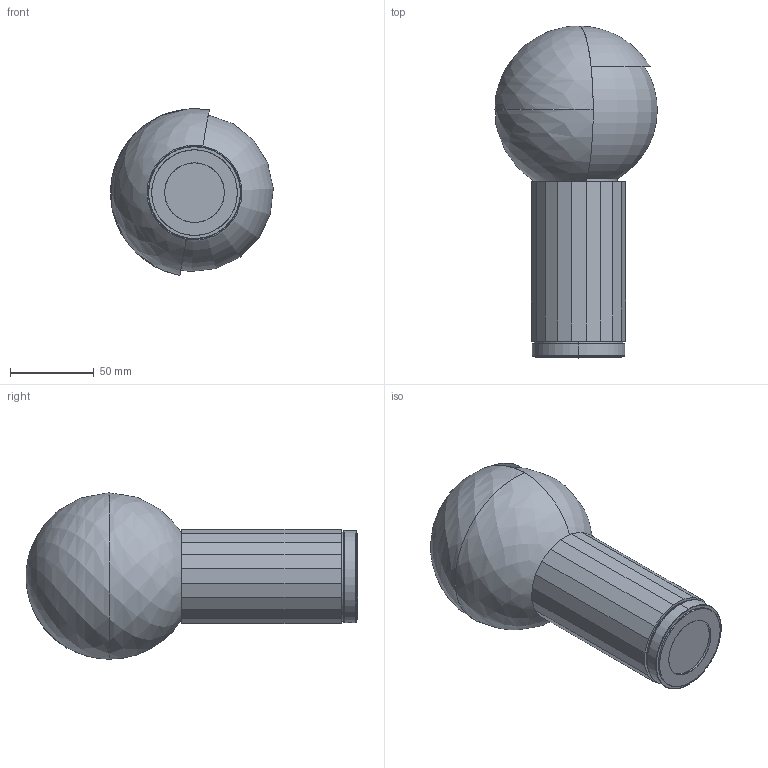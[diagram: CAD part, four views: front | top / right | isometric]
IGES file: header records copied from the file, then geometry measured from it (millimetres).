
Start section: SolidWorks IGES file using analytic representation for surfaces
Global section: file name: C:\Users\sam.weller\Documents\WfH\59 - Switch Light by Joel Hoff\1 Drawings\3D\IGS\WH-SL-AS01-SWITCHLIGHT-REV4.IGS; native system: SolidWorks 2014; preprocessor: SolidWorks 2014; author: sam.weller; date: 150716.115412; units: millimetre
Bounding box: 96.83 x 197.71 x 99.2 mm (x, y, z)
Surface area: 162421.9 mm2 (no closed solid volume)
Topology: 0 solids, 0 shells, 1147 faces, 12615 edges, 12595 vertices
Faces by surface type: revolution 710, bspline 437
